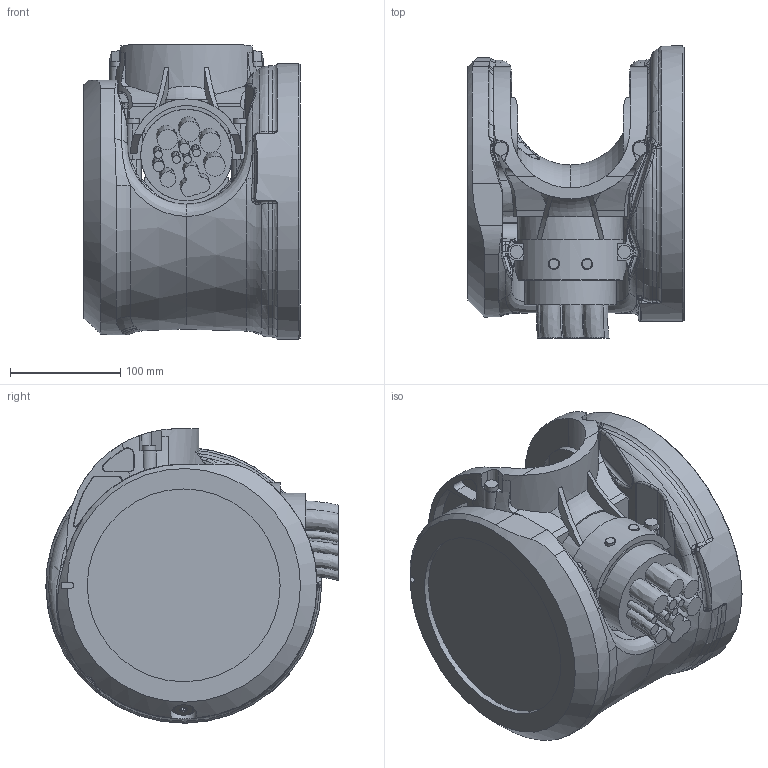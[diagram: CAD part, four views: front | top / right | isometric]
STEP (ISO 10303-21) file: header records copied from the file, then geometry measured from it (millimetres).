
FILE_DESCRIPTION (( 'STEP AP214' ), '1' );
FILE_NAME ('IRB7710_All-310_OC_00_LINK06_CABLE.step', '2026-01-28T09:15:48', ( '' ), ( '' ), 'SwSTEP 2.0', 'SolidWorks 2024', '' );
FILE_SCHEMA (( 'AUTOMOTIVE_DESIGN' ));
Length unit declared in the file: millimetre
Products named in the file (1): IRB7710_All-310_OC_00_LINK06_CABLE
Bounding box: 196 x 265.09 x 267 mm (x, y, z)
Volume: 5390169.7 mm3; surface area: 418307.7 mm2
Topology: 1 solids, 1 shells, 752 faces, 1920 edges, 1193 vertices
Faces by surface type: bspline 240, plane 196, cylinder 165, torus 75, cone 71, sphere 5
Full cylindrical faces by diameter (mm): 4.8 x1, 8.5 x2, 10 x2, 12 x5, 14 x12, 17.9 x1, 18 x1, 24 x1, 73 x1, 83 x1, 175 x1, 250 x1
Entity records: 41545 total; most frequent: CARTESIAN_POINT 17502, ORIENTED_EDGE 3692, DIRECTION 2703, EDGE_CURVE 1846, VERTEX_POINT 1177, AXIS2_PLACEMENT_3D 1121, EDGE_LOOP 845, FACE_OUTER_BOUND 795
